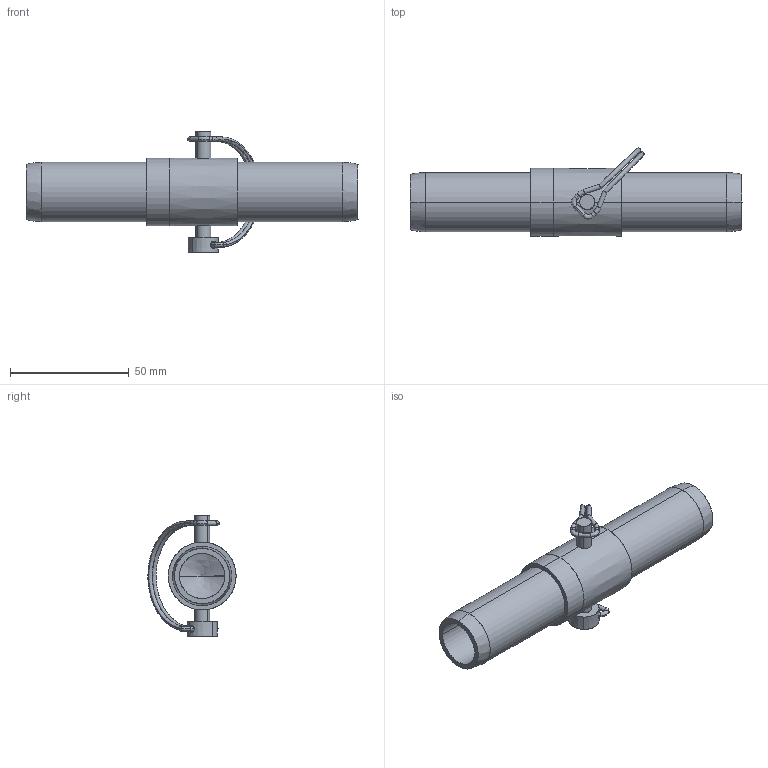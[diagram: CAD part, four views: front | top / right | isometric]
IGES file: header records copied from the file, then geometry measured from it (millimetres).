
Start section: SolidWorks IGES file using analytic representation for surfaces
Global section: file name: \\SERVER3\Design\_New Design Drive Folder List\_Design Vault\AAI\Modular Round Tube Connectors\Solidworks Models\STP Files\12202013\1.000 Inch Modular Connectors\Assemblies\1 Inch Pinned Joint.IGS; native system: SolidWorks 2013; preprocessor: SolidWorks 2013; author: tbraun; date: 140110.114207; units: inch
Bounding box: 139.7 x 37.11 x 50.8 mm (x, y, z)
Surface area: 25556.2 mm2 (no closed solid volume)
Topology: 0 solids, 0 shells, 88 faces, 1541 edges, 1538 vertices
Faces by surface type: revolution 48, bspline 40
